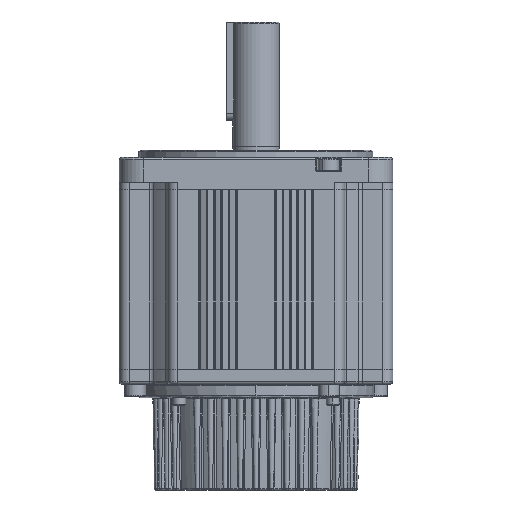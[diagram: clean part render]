
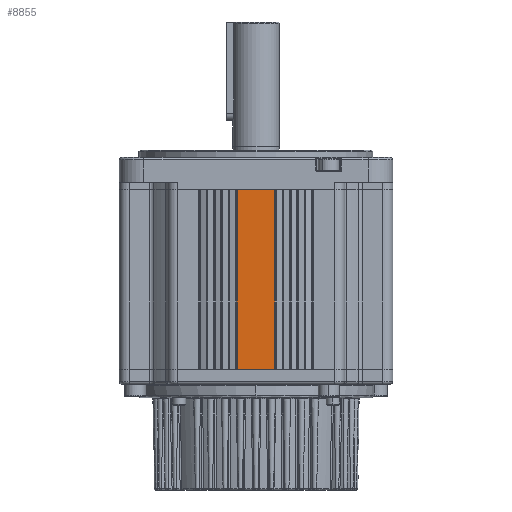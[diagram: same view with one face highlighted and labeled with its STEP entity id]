
A CAD part, front view. The second image highlights one B-rep face of the part: STEP entity #8855.
In plain terms, the highlighted planar face has unit normal (0, -1, 0) as drawn and (1, 0, 0) by its records, which use the part's own axes.
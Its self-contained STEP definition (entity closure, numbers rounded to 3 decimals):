
#1589 = CARTESIAN_POINT ( 'NONE',  ( 55.5, -7.7, 73. ) ) ;
#2904 = VECTOR ( 'NONE', #57066, 1000. ) ;
#3211 = ORIENTED_EDGE ( 'NONE', *, *, #25003, .T. ) ;
#8855 = ADVANCED_FACE ( 'NONE', ( #88985 ), #49190, .F. ) ;
#10027 = EDGE_CURVE ( 'NONE', #18837, #48570, #60428, .T. ) ;
#13952 = EDGE_LOOP ( 'NONE', ( #79622, #3211, #36274, #19702 ) ) ;
#18837 = VERTEX_POINT ( 'NONE', #27558 ) ;
#19702 = ORIENTED_EDGE ( 'NONE', *, *, #89124, .T. ) ;
#21169 = EDGE_CURVE ( 'NONE', #78643, #82138, #73295, .T. ) ;
#25003 = EDGE_CURVE ( 'NONE', #18837, #78643, #85437, .T. ) ;
#27558 = CARTESIAN_POINT ( 'NONE',  ( 55.5, -7.7, 73. ) ) ;
#27590 = DIRECTION ( 'NONE',  ( 0., 0., 1. ) ) ;
#28157 = AXIS2_PLACEMENT_3D ( 'NONE', #54976, #69110, #27590 ) ;
#30852 = LINE ( 'NONE', #36311, #2904 ) ;
#35467 = CARTESIAN_POINT ( 'NONE',  ( 55.5, -8., 73. ) ) ;
#36274 = ORIENTED_EDGE ( 'NONE', *, *, #21169, .T. ) ;
#36311 = CARTESIAN_POINT ( 'NONE',  ( 55.5, 7.7, 73. ) ) ;
#39034 = VECTOR ( 'NONE', #64475, 1000. ) ;
#48570 = VERTEX_POINT ( 'NONE', #50449 ) ;
#49190 = PLANE ( 'NONE',  #28157 ) ;
#50449 = CARTESIAN_POINT ( 'NONE',  ( 55.5, 7.7, 73. ) ) ;
#54976 = CARTESIAN_POINT ( 'NONE',  ( 55.5, -8., 73. ) ) ;
#56218 = DIRECTION ( 'NONE',  ( 0., 1., 0. ) ) ;
#57066 = DIRECTION ( 'NONE',  ( 0., 0., 1. ) ) ;
#60428 = LINE ( 'NONE', #35467, #72256 ) ;
#62115 = CARTESIAN_POINT ( 'NONE',  ( 55.5, 7.7, 0. ) ) ;
#64475 = DIRECTION ( 'NONE',  ( 0., 0., -1. ) ) ;
#66356 = CARTESIAN_POINT ( 'NONE',  ( 55.5, -8., 0. ) ) ;
#69110 = DIRECTION ( 'NONE',  ( -1., 0., 0. ) ) ;
#71154 = VECTOR ( 'NONE', #73229, 1000. ) ;
#72256 = VECTOR ( 'NONE', #56218, 1000. ) ;
#73229 = DIRECTION ( 'NONE',  ( 0., 1., 0. ) ) ;
#73295 = LINE ( 'NONE', #66356, #71154 ) ;
#78643 = VERTEX_POINT ( 'NONE', #82452 ) ;
#79622 = ORIENTED_EDGE ( 'NONE', *, *, #10027, .F. ) ;
#82138 = VERTEX_POINT ( 'NONE', #62115 ) ;
#82452 = CARTESIAN_POINT ( 'NONE',  ( 55.5, -7.7, 0. ) ) ;
#85437 = LINE ( 'NONE', #1589, #39034 ) ;
#88985 = FACE_OUTER_BOUND ( 'NONE', #13952, .T. ) ;
#89124 = EDGE_CURVE ( 'NONE', #82138, #48570, #30852, .T. ) ;
